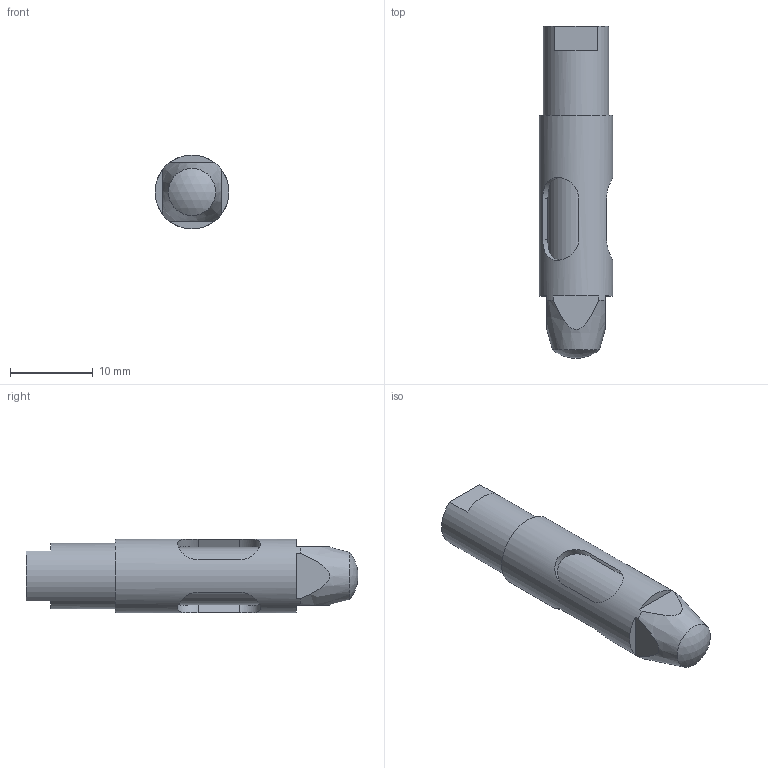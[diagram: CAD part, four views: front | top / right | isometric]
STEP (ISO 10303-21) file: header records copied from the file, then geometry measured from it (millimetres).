
FILE_DESCRIPTION(/* description */ (''),/* implementation_level */ '2;1');
FILE_NAME(/* name */ 'T:\Anwender\Praktikant\Tobias Könemund\Innengreifer\Parametrisch\G-GI009_vereinfacht.stp',/* time_stamp */ '2015-10-30T08:20:35+01:00',/* author */ ('Praktikant'),/* organization */ ('GRIP GmbH'),/* preprocessor_version */ 'ST-DEVELOPER v15.2',/* originating_system */ 'Autodesk Inventor 2014',/* authorisation */ '');
FILE_SCHEMA (('AUTOMOTIVE_DESIGN { 1 0 10303 214 3 1 1 }'));
Length unit declared in the file: millimetre
Products named in the file (3): G-GI009-2.1-1 Dorn_vereinfacht-12; G-GI009-1.1-1 Hülse_vereinfacht-07; Baugruppe_vereinfacht
Bounding box: 8.9 x 40.02 x 8.9 mm (x, y, z)
Volume: 1786.7 mm3; surface area: 2046.6 mm2
Topology: 2 solids, 2 shells, 37 faces, 95 edges, 63 vertices
Faces by surface type: plane 23, cylinder 11, cone 2, sphere 1
Full cylindrical faces by diameter (mm): 5 x1, 6.9 x1, 7.1 x1, 7.9 x1, 8.9 x1
Entity records: 1288 total; most frequent: CARTESIAN_POINT 392, DIRECTION 170, ORIENTED_EDGE 162, EDGE_CURVE 81, AXIS2_PLACEMENT_3D 63, VERTEX_POINT 57, EDGE_LOOP 52, LINE 44
